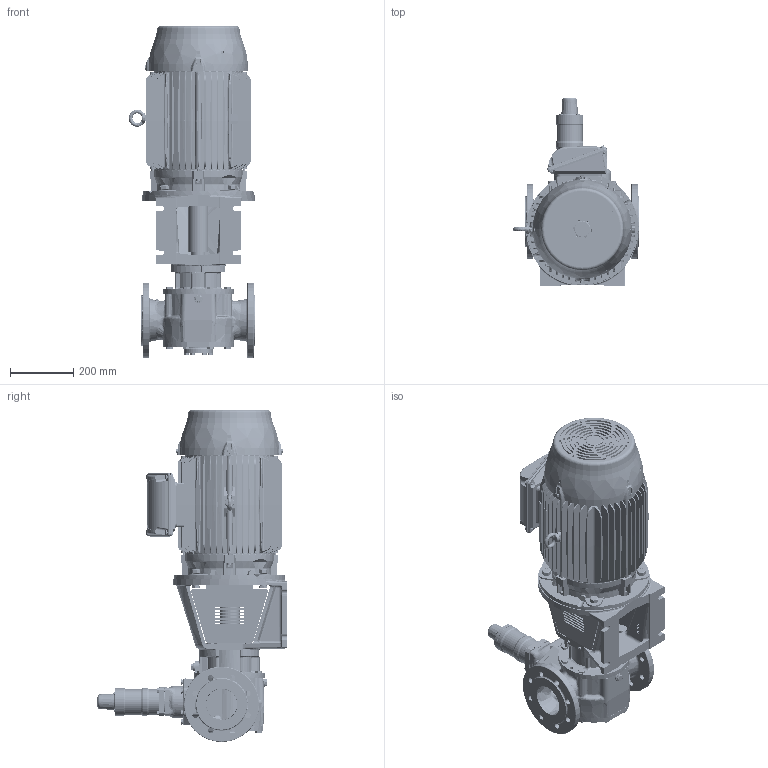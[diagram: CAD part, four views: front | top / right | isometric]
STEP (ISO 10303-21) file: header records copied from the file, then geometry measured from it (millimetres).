
FILE_DESCRIPTION(/* description */ (''),/* implementation_level */ '2;1');
FILE_NAME(/* name */ 'C:\V\JPP\Designs\GEAR PUMPS\PRODUCT ENGINEERING\EUROPE\TG BLOC\TG BLOC_86-100_R5_O_RV1-_160L-STEP.stp',/* time_stamp */ '2021-03-19T15:10:54+01:00',/* author */ ('A77THR'),/* organization */ (''),/* preprocessor_version */ 'ST-DEVELOPER v18.1',/* originating_system */ 'Autodesk Inventor 2020',/* authorisation */ '');
FILE_SCHEMA (('AUTOMOTIVE_DESIGN { 1 0 10303 214 3 1 1 }'));
Length unit declared in the file: millimetre
Products named in the file (1): TG BLOC_86-100_R5_O_RV1-_160L
Bounding box: 399.99 x 597 x 1048.4 mm (x, y, z)
Volume: 56241278.5 mm3; surface area: 2806605.9 mm2
Topology: 1 solids, 1 shells, 5172 faces, 13564 edges, 8566 vertices
Faces by surface type: plane 2076, cylinder 1138, bspline 1074, cone 680, torus 154, sphere 50
Full cylindrical faces by diameter (mm): 4 x1, 4.5 x8, 4.917 x8, 5 x4, 5.459 x4, 6 x4, 6.647 x1, 7 x8, 7.323 x10, 7.5 x3, 8 x23, 8.7 x4, 9 x12, 9.188 x8, 9.4 x1, 10 x16, 10.106 x7, 10.2 x2, 11 x8, 11.053 x4, 11.4 x10, 11.445 x2, 11.6 x7, 12 x4, 12.5 x3, 13 x5, 13.157 x2, 13.2 x2, 14 x8, 15.011 x2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
Entity records: 216834 total; most frequent: CARTESIAN_POINT 92713, ORIENTED_EDGE 26902, DIRECTION 22736, EDGE_CURVE 13451, AXIS2_PLACEMENT_3D 8830, VERTEX_POINT 8566, EDGE_LOOP 5631, FACE_OUTER_BOUND 5172
